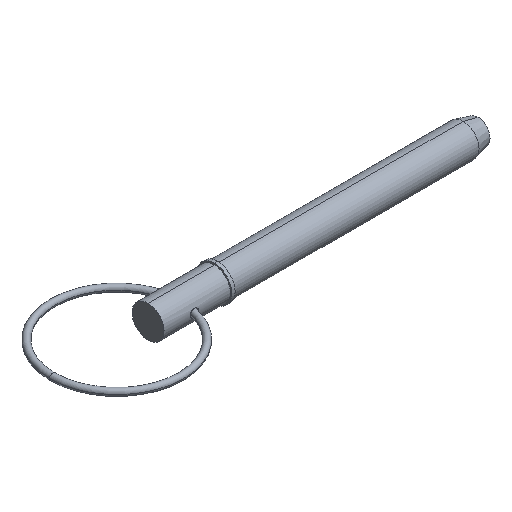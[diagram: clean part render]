
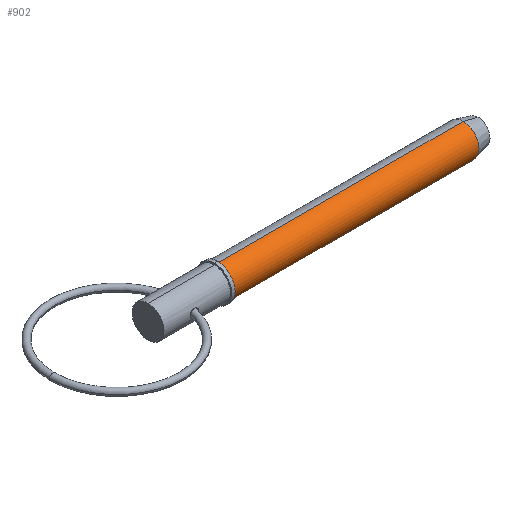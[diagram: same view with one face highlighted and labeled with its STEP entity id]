
A CAD part, isometric view. The second image highlights one B-rep face of the part: STEP entity #902.
In plain terms, the highlighted cylindrical face has radius 5.555 mm (diameter 11.11 mm), a partial arc.
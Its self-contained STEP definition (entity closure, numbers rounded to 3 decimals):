
#3 = CARTESIAN_POINT ( 'NONE',  ( 24.13, 0., 5.555 ) ) ;
#46 = EDGE_CURVE ( 'NONE', #965, #456, #376, .T. ) ;
#64 = ORIENTED_EDGE ( 'NONE', *, *, #162, .T. ) ;
#91 = VECTOR ( 'NONE', #629, 1000. ) ;
#93 = DIRECTION ( 'NONE',  ( 0., 0., -1. ) ) ;
#109 = DIRECTION ( 'NONE',  ( 0., 0., -1. ) ) ;
#118 = AXIS2_PLACEMENT_3D ( 'NONE', #494, #347, #109 ) ;
#148 = CARTESIAN_POINT ( 'NONE',  ( 0., 0., 5.555 ) ) ;
#162 = EDGE_CURVE ( 'NONE', #1012, #588, #323, .T. ) ;
#213 = DIRECTION ( 'NONE',  ( 0., 0., -1. ) ) ;
#235 = ORIENTED_EDGE ( 'NONE', *, *, #757, .T. ) ;
#253 = CARTESIAN_POINT ( 'NONE',  ( 0., 0., -5.555 ) ) ;
#309 = VECTOR ( 'NONE', #661, 1000. ) ;
#323 = CIRCLE ( 'NONE', #919, 5.555 ) ;
#347 = DIRECTION ( 'NONE',  ( 1., 0., 0. ) ) ;
#348 = FACE_OUTER_BOUND ( 'NONE', #640, .T. ) ;
#376 = CIRCLE ( 'NONE', #118, 5.555 ) ;
#402 = LINE ( 'NONE', #148, #91 ) ;
#456 = VERTEX_POINT ( 'NONE', #1026 ) ;
#494 = CARTESIAN_POINT ( 'NONE',  ( 109.417, 0., 0. ) ) ;
#499 = LINE ( 'NONE', #253, #309 ) ;
#562 = AXIS2_PLACEMENT_3D ( 'NONE', #959, #599, #93 ) ;
#588 = VERTEX_POINT ( 'NONE', #889 ) ;
#591 = ORIENTED_EDGE ( 'NONE', *, *, #851, .F. ) ;
#599 = DIRECTION ( 'NONE',  ( 1., 0., 0. ) ) ;
#629 = DIRECTION ( 'NONE',  ( 1., 0., 0. ) ) ;
#640 = EDGE_LOOP ( 'NONE', ( #591, #64, #235, #745 ) ) ;
#661 = DIRECTION ( 'NONE',  ( 1., 0., 0. ) ) ;
#681 = CARTESIAN_POINT ( 'NONE',  ( 24.13, 0., 0. ) ) ;
#722 = CARTESIAN_POINT ( 'NONE',  ( 109.417, 0., 5.555 ) ) ;
#745 = ORIENTED_EDGE ( 'NONE', *, *, #46, .F. ) ;
#757 = EDGE_CURVE ( 'NONE', #588, #456, #499, .T. ) ;
#851 = EDGE_CURVE ( 'NONE', #1012, #965, #402, .T. ) ;
#857 = CYLINDRICAL_SURFACE ( 'NONE', #562, 5.555 ) ;
#863 = DIRECTION ( 'NONE',  ( 1., 0., 0. ) ) ;
#889 = CARTESIAN_POINT ( 'NONE',  ( 24.13, 0., -5.555 ) ) ;
#902 = ADVANCED_FACE ( 'NONE', ( #348 ), #857, .T. ) ;
#919 = AXIS2_PLACEMENT_3D ( 'NONE', #681, #863, #213 ) ;
#959 = CARTESIAN_POINT ( 'NONE',  ( 0., 0., 0. ) ) ;
#965 = VERTEX_POINT ( 'NONE', #722 ) ;
#1012 = VERTEX_POINT ( 'NONE', #3 ) ;
#1026 = CARTESIAN_POINT ( 'NONE',  ( 109.417, 0., -5.555 ) ) ;
